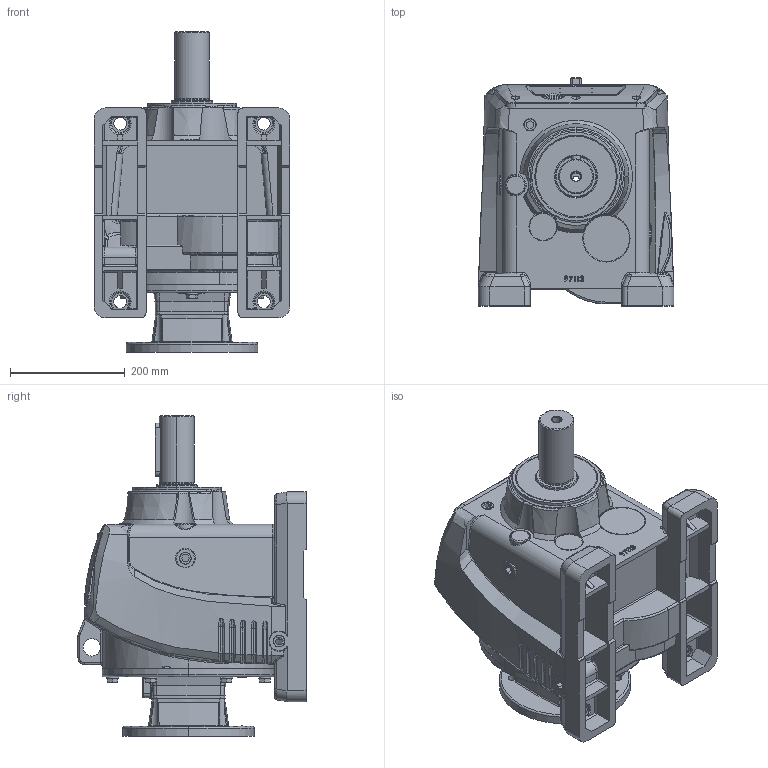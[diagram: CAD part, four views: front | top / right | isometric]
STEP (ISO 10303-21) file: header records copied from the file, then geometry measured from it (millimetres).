
FILE_DESCRIPTION (( 'STEP AP203' ), '1' );
FILE_NAME ('WINL97-213-5TC.STEP', '2013-09-26T10:06:09', ( 'User' ), ( 'Chenta' ), 'SwSTEP 2.0', 'SolidWorks 2011', '' );
FILE_SCHEMA (( 'CONFIG_CONTROL_DESIGN' ));
Products named in the file (1): WINL97-213-5TC
Bounding box: 340 x 397 x 557.5 mm (x, y, z)
Surface area: 1098035.4 mm2 (no closed solid volume)
Topology: 0 solids, 40 shells, 1238 faces, 3701 edges, 2461 vertices
Faces by surface type: plane 392, bspline 342, cylinder 292, cone 101, torus 96, sphere 15
Entity records: 69478 total; most frequent: CARTESIAN_POINT 39405, ORIENTED_EDGE 6605, DIRECTION 5281, EDGE_CURVE 3692, VERTEX_POINT 2461, AXIS2_PLACEMENT_3D 1942, VECTOR 1397, LINE 1397
